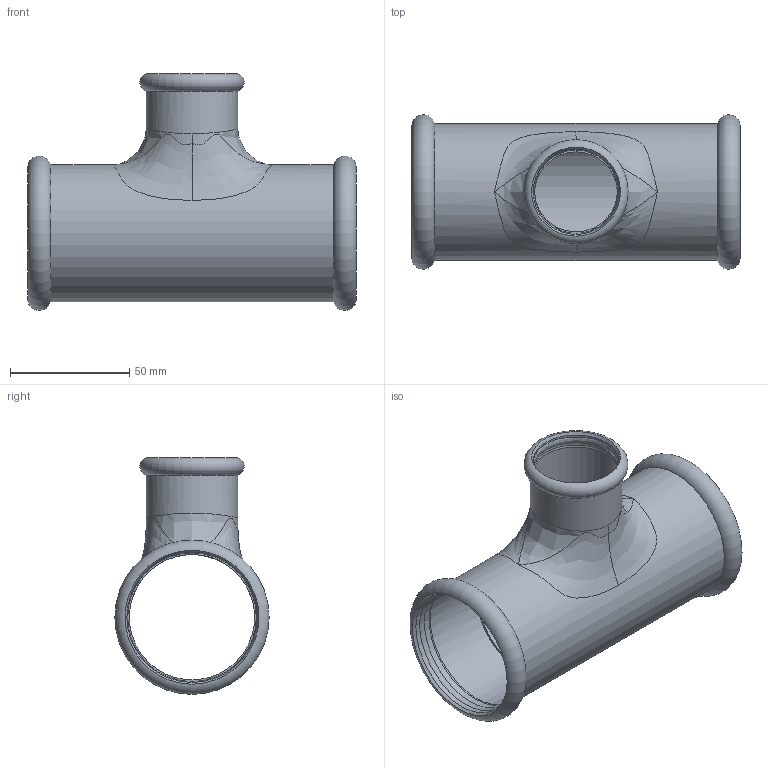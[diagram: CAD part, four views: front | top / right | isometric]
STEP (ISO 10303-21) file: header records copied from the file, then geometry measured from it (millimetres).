
FILE_DESCRIPTION(/* description */ ('TEE RIDOTTO STEELPRES 54-35-54 idroformato'),/* implementation_level */ '2;1');
FILE_NAME(/* name */ 'C:\Users\Vault\Desktop\392_STEELPRES\392054035_Steelpres.stp',/* time_stamp */ '2022-10-24T15:05:42+02:00',/* author */ ('Vault'),/* organization */ ('Raccorderie metalliche s.p.a. '),/* preprocessor_version */ 'ST-DEVELOPER v18.1',/* originating_system */ 'Autodesk Inventor 2020',/* authorisation */ 'Raccorderie metalliche s.p.a. ');
FILE_SCHEMA (('AUTOMOTIVE_DESIGN { 1 0 10303 214 3 1 1 }'));
Length unit declared in the file: millimetre
Products named in the file (1): 392054035I_Steelpres
Bounding box: 138 x 64.76 x 99.38 mm (x, y, z)
Volume: 63704.4 mm3; surface area: 58085.9 mm2
Topology: 1 solids, 1 shells, 55 faces, 178 edges, 114 vertices
Faces by surface type: bspline 28, cylinder 12, torus 9, plane 3, cone 3
Full cylindrical faces by diameter (mm): 35.4 x1, 35.8 x2, 38.4 x1, 54.5 x2, 54.7 x4, 57.5 x1
Entity records: 8521 total; most frequent: CARTESIAN_POINT 7132, ORIENTED_EDGE 338, DIRECTION 216, EDGE_CURVE 169, VERTEX_POINT 114, AXIS2_PLACEMENT_3D 99, B_SPLINE_CURVE_WITH_KNOTS 77, CIRCLE 71
